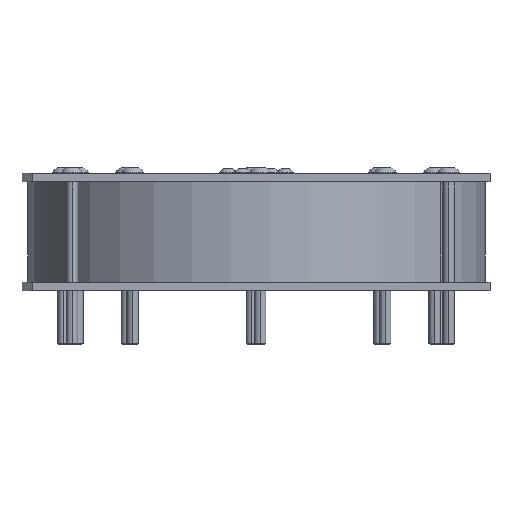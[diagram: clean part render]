
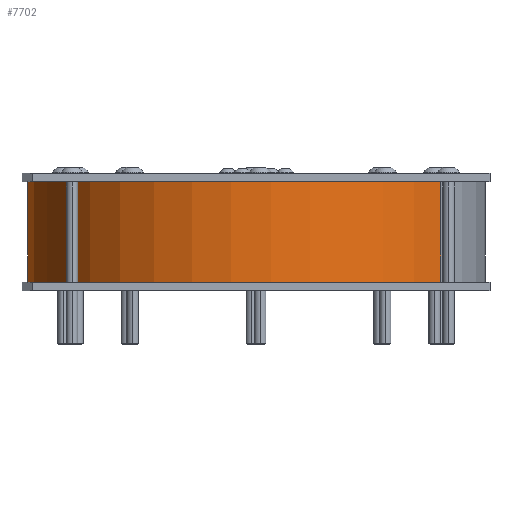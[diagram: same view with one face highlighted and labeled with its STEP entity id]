
A CAD part, left-side view. The second image highlights one B-rep face of the part: STEP entity #7702.
In plain terms, the highlighted cylindrical face has radius 80.1 mm (diameter 160.2 mm), a partial arc.
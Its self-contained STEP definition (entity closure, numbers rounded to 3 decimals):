
#48 = EDGE_CURVE ( 'NONE', #988, #7425, #3576, .T. ) ;
#435 = ORIENTED_EDGE ( 'NONE', *, *, #7347, .T. ) ;
#460 = CARTESIAN_POINT ( 'NONE',  ( 0., 0., -416.368 ) ) ;
#617 = DIRECTION ( 'NONE',  ( 1., 0., 0. ) ) ;
#988 = VERTEX_POINT ( 'NONE', #7138 ) ;
#1048 = FACE_OUTER_BOUND ( 'NONE', #6723, .T. ) ;
#1057 = LINE ( 'NONE', #7210, #4919 ) ;
#1261 = VECTOR ( 'NONE', #8647, 1000. ) ;
#1805 = DIRECTION ( 'NONE',  ( 0., 0., 1. ) ) ;
#1844 = CIRCLE ( 'NONE', #3863, 80.1 ) ;
#1978 = CARTESIAN_POINT ( 'NONE',  ( -80.1, 0., -154.811 ) ) ;
#2001 = CIRCLE ( 'NONE', #7886, 80.1 ) ;
#2316 = AXIS2_PLACEMENT_3D ( 'NONE', #460, #1805, #2484 ) ;
#2450 = DIRECTION ( 'NONE',  ( 0., 0., 1. ) ) ;
#2484 = DIRECTION ( 'NONE',  ( 1., 0., 0. ) ) ;
#2679 = CARTESIAN_POINT ( 'NONE',  ( -80.1, 0., -189.811 ) ) ;
#2956 = DIRECTION ( 'NONE',  ( 0., 0., 1. ) ) ;
#3576 = LINE ( 'NONE', #7376, #1261 ) ;
#3863 = AXIS2_PLACEMENT_3D ( 'NONE', #5041, #2956, #6465 ) ;
#3978 = ORIENTED_EDGE ( 'NONE', *, *, #48, .F. ) ;
#4234 = ORIENTED_EDGE ( 'NONE', *, *, #5765, .F. ) ;
#4393 = EDGE_CURVE ( 'NONE', #4409, #988, #2001, .T. ) ;
#4409 = VERTEX_POINT ( 'NONE', #2679 ) ;
#4919 = VECTOR ( 'NONE', #2450, 1000. ) ;
#5041 = CARTESIAN_POINT ( 'NONE',  ( 0., 0., -154.811 ) ) ;
#5765 = EDGE_CURVE ( 'NONE', #7425, #6742, #1844, .T. ) ;
#5865 = CYLINDRICAL_SURFACE ( 'NONE', #2316, 80.1 ) ;
#6002 = CARTESIAN_POINT ( 'NONE',  ( 80.1, 0., -154.811 ) ) ;
#6104 = DIRECTION ( 'NONE',  ( 0., 0., -1. ) ) ;
#6465 = DIRECTION ( 'NONE',  ( 1., 0., 0. ) ) ;
#6643 = ORIENTED_EDGE ( 'NONE', *, *, #4393, .F. ) ;
#6723 = EDGE_LOOP ( 'NONE', ( #6643, #435, #4234, #3978 ) ) ;
#6742 = VERTEX_POINT ( 'NONE', #1978 ) ;
#6765 = CARTESIAN_POINT ( 'NONE',  ( 0., 0., -189.811 ) ) ;
#7138 = CARTESIAN_POINT ( 'NONE',  ( 80.1, 0., -189.811 ) ) ;
#7210 = CARTESIAN_POINT ( 'NONE',  ( -80.1, 0., -416.368 ) ) ;
#7347 = EDGE_CURVE ( 'NONE', #4409, #6742, #1057, .T. ) ;
#7376 = CARTESIAN_POINT ( 'NONE',  ( 80.1, 0., -416.368 ) ) ;
#7425 = VERTEX_POINT ( 'NONE', #6002 ) ;
#7702 = ADVANCED_FACE ( 'NONE', ( #1048 ), #5865, .T. ) ;
#7886 = AXIS2_PLACEMENT_3D ( 'NONE', #6765, #6104, #617 ) ;
#8647 = DIRECTION ( 'NONE',  ( 0., 0., 1. ) ) ;
